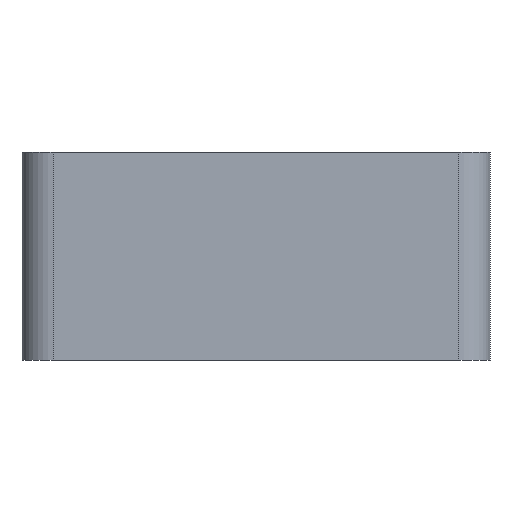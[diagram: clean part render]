
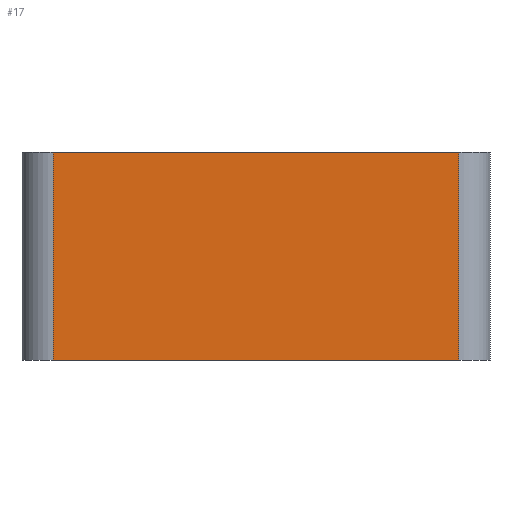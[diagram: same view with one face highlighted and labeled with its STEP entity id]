
A CAD part, left-side view. The second image highlights one B-rep face of the part: STEP entity #17.
In plain terms, the highlighted planar face has unit normal (-1, 0, 0).
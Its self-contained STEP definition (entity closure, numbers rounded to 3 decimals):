
#17 = ADVANCED_FACE('',(#18),#32,.F.);
#18 = FACE_BOUND('',#19,.F.);
#19 = EDGE_LOOP('',(#20,#55,#83,#111));
#20 = ORIENTED_EDGE('',*,*,#21,.F.);
#21 = EDGE_CURVE('',#22,#24,#26,.T.);
#22 = VERTEX_POINT('',#23);
#23 = CARTESIAN_POINT('',(-10.,-7.8,8.));
#24 = VERTEX_POINT('',#25);
#25 = CARTESIAN_POINT('',(-10.,7.8,8.));
#26 = SURFACE_CURVE('',#27,(#31,#43),.PCURVE_S1.);
#27 = LINE('',#28,#29);
#28 = CARTESIAN_POINT('',(-10.,-9.,8.));
#29 = VECTOR('',#30,1.);
#30 = DIRECTION('',(0.,1.,0.));
#31 = PCURVE('',#32,#37);
#32 = PLANE('',#33);
#33 = AXIS2_PLACEMENT_3D('',#34,#35,#36);
#34 = CARTESIAN_POINT('',(-10.,-9.,0.));
#35 = DIRECTION('',(1.,0.,0.));
#36 = DIRECTION('',(0.,0.,1.));
#37 = DEFINITIONAL_REPRESENTATION('',(#38),#42);
#38 = LINE('',#39,#40);
#39 = CARTESIAN_POINT('',(8.,0.));
#40 = VECTOR('',#41,1.);
#41 = DIRECTION('',(0.,-1.));
#42 = ( GEOMETRIC_REPRESENTATION_CONTEXT(2) 
PARAMETRIC_REPRESENTATION_CONTEXT() REPRESENTATION_CONTEXT('2D SPACE',''
  ) );
#43 = PCURVE('',#44,#49);
#44 = PLANE('',#45);
#45 = AXIS2_PLACEMENT_3D('',#46,#47,#48);
#46 = CARTESIAN_POINT('',(-10.,-9.,8.));
#47 = DIRECTION('',(0.,0.,1.));
#48 = DIRECTION('',(1.,0.,0.));
#49 = DEFINITIONAL_REPRESENTATION('',(#50),#54);
#50 = LINE('',#51,#52);
#51 = CARTESIAN_POINT('',(0.,0.));
#52 = VECTOR('',#53,1.);
#53 = DIRECTION('',(0.,1.));
#54 = ( GEOMETRIC_REPRESENTATION_CONTEXT(2) 
PARAMETRIC_REPRESENTATION_CONTEXT() REPRESENTATION_CONTEXT('2D SPACE',''
  ) );
#55 = ORIENTED_EDGE('',*,*,#56,.F.);
#56 = EDGE_CURVE('',#57,#22,#59,.T.);
#57 = VERTEX_POINT('',#58);
#58 = CARTESIAN_POINT('',(-10.,-7.8,0.));
#59 = SURFACE_CURVE('',#60,(#64,#71),.PCURVE_S1.);
#60 = LINE('',#61,#62);
#61 = CARTESIAN_POINT('',(-10.,-7.8,0.));
#62 = VECTOR('',#63,1.);
#63 = DIRECTION('',(0.,0.,1.));
#64 = PCURVE('',#32,#65);
#65 = DEFINITIONAL_REPRESENTATION('',(#66),#70);
#66 = LINE('',#67,#68);
#67 = CARTESIAN_POINT('',(0.,-1.2));
#68 = VECTOR('',#69,1.);
#69 = DIRECTION('',(1.,0.));
#70 = ( GEOMETRIC_REPRESENTATION_CONTEXT(2) 
PARAMETRIC_REPRESENTATION_CONTEXT() REPRESENTATION_CONTEXT('2D SPACE',''
  ) );
#71 = PCURVE('',#72,#77);
#72 = CYLINDRICAL_SURFACE('',#73,1.2);
#73 = AXIS2_PLACEMENT_3D('',#74,#75,#76);
#74 = CARTESIAN_POINT('',(-8.8,-7.8,0.));
#75 = DIRECTION('',(0.,0.,1.));
#76 = DIRECTION('',(-1.,-0.,0.));
#77 = DEFINITIONAL_REPRESENTATION('',(#78),#82);
#78 = LINE('',#79,#80);
#79 = CARTESIAN_POINT('',(0.,0.));
#80 = VECTOR('',#81,1.);
#81 = DIRECTION('',(0.,1.));
#82 = ( GEOMETRIC_REPRESENTATION_CONTEXT(2) 
PARAMETRIC_REPRESENTATION_CONTEXT() REPRESENTATION_CONTEXT('2D SPACE',''
  ) );
#83 = ORIENTED_EDGE('',*,*,#84,.T.);
#84 = EDGE_CURVE('',#57,#85,#87,.T.);
#85 = VERTEX_POINT('',#86);
#86 = CARTESIAN_POINT('',(-10.,7.8,0.));
#87 = SURFACE_CURVE('',#88,(#92,#99),.PCURVE_S1.);
#88 = LINE('',#89,#90);
#89 = CARTESIAN_POINT('',(-10.,-9.,0.));
#90 = VECTOR('',#91,1.);
#91 = DIRECTION('',(0.,1.,0.));
#92 = PCURVE('',#32,#93);
#93 = DEFINITIONAL_REPRESENTATION('',(#94),#98);
#94 = LINE('',#95,#96);
#95 = CARTESIAN_POINT('',(0.,0.));
#96 = VECTOR('',#97,1.);
#97 = DIRECTION('',(0.,-1.));
#98 = ( GEOMETRIC_REPRESENTATION_CONTEXT(2) 
PARAMETRIC_REPRESENTATION_CONTEXT() REPRESENTATION_CONTEXT('2D SPACE',''
  ) );
#99 = PCURVE('',#100,#105);
#100 = PLANE('',#101);
#101 = AXIS2_PLACEMENT_3D('',#102,#103,#104);
#102 = CARTESIAN_POINT('',(-10.,-9.,0.));
#103 = DIRECTION('',(0.,0.,1.));
#104 = DIRECTION('',(1.,0.,0.));
#105 = DEFINITIONAL_REPRESENTATION('',(#106),#110);
#106 = LINE('',#107,#108);
#107 = CARTESIAN_POINT('',(0.,0.));
#108 = VECTOR('',#109,1.);
#109 = DIRECTION('',(0.,1.));
#110 = ( GEOMETRIC_REPRESENTATION_CONTEXT(2) 
PARAMETRIC_REPRESENTATION_CONTEXT() REPRESENTATION_CONTEXT('2D SPACE',''
  ) );
#111 = ORIENTED_EDGE('',*,*,#112,.T.);
#112 = EDGE_CURVE('',#85,#24,#113,.T.);
#113 = SURFACE_CURVE('',#114,(#118,#125),.PCURVE_S1.);
#114 = LINE('',#115,#116);
#115 = CARTESIAN_POINT('',(-10.,7.8,0.));
#116 = VECTOR('',#117,1.);
#117 = DIRECTION('',(0.,0.,1.));
#118 = PCURVE('',#32,#119);
#119 = DEFINITIONAL_REPRESENTATION('',(#120),#124);
#120 = LINE('',#121,#122);
#121 = CARTESIAN_POINT('',(0.,-16.8));
#122 = VECTOR('',#123,1.);
#123 = DIRECTION('',(1.,0.));
#124 = ( GEOMETRIC_REPRESENTATION_CONTEXT(2) 
PARAMETRIC_REPRESENTATION_CONTEXT() REPRESENTATION_CONTEXT('2D SPACE',''
  ) );
#125 = PCURVE('',#126,#131);
#126 = CYLINDRICAL_SURFACE('',#127,1.2);
#127 = AXIS2_PLACEMENT_3D('',#128,#129,#130);
#128 = CARTESIAN_POINT('',(-8.8,7.8,0.));
#129 = DIRECTION('',(0.,0.,1.));
#130 = DIRECTION('',(-1.,-0.,0.));
#131 = DEFINITIONAL_REPRESENTATION('',(#132),#136);
#132 = LINE('',#133,#134);
#133 = CARTESIAN_POINT('',(-0.,0.));
#134 = VECTOR('',#135,1.);
#135 = DIRECTION('',(-0.,1.));
#136 = ( GEOMETRIC_REPRESENTATION_CONTEXT(2) 
PARAMETRIC_REPRESENTATION_CONTEXT() REPRESENTATION_CONTEXT('2D SPACE',''
  ) );
